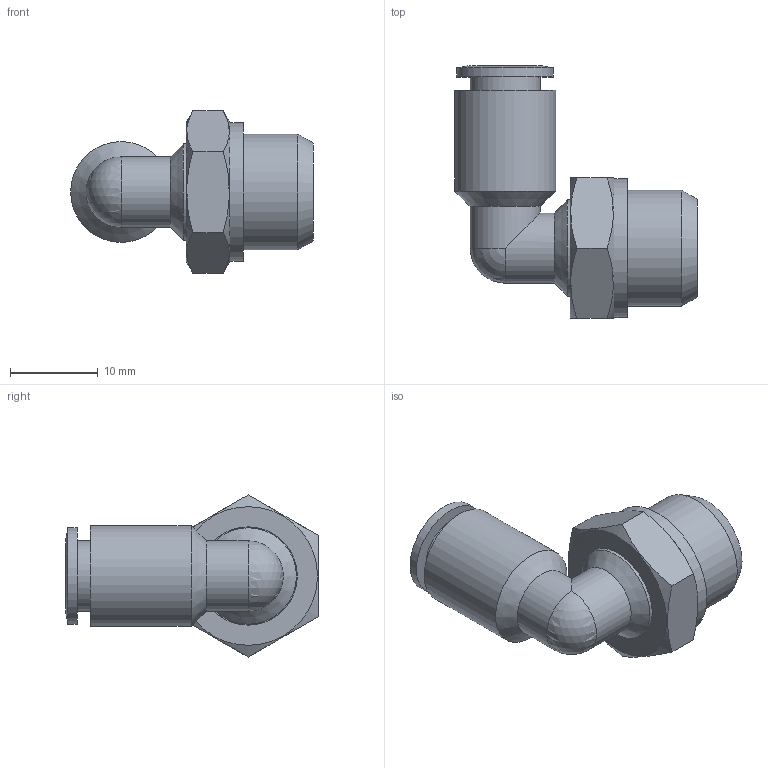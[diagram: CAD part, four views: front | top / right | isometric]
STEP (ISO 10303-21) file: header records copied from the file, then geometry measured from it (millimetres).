
FILE_DESCRIPTION((''),'2;1');
FILE_NAME('C:\Documents and Settings\rivolro1\Documenti\copia di Raccordi\PLASTICA\T22XXXX\T220614.stp','2007-11-02T14:27:05',('Rivolro1'),(''),'Autodesk Inventor 2008','Autodesk Inventor 2008','');
FILE_SCHEMA(('AUTOMOTIVE_DESIGN { 1 0 10303 214 1 1 1 1 }'));
Length unit declared in the file: millimetre
Products named in the file (1): T220614
Bounding box: 27.65 x 28.8 x 18.48 mm (x, y, z)
Volume: 3618.5 mm3; surface area: 2877.2 mm2
Topology: 1 solids, 1 shells, 36 faces, 79 edges, 47 vertices
Faces by surface type: plane 15, cylinder 10, cone 6, bspline 4, sphere 1
Full cylindrical faces by diameter (mm): 5 x1, 8 x3, 11 x2, 11.2 x1, 11.5 x1, 13.2 x1, 15.8 x1
Entity records: 954 total; most frequent: CARTESIAN_POINT 234, DIRECTION 136, ORIENTED_EDGE 102, AXIS2_PLACEMENT_3D 64, EDGE_LOOP 62, EDGE_CURVE 51, VERTEX_POINT 41, FACE_OUTER_BOUND 36
